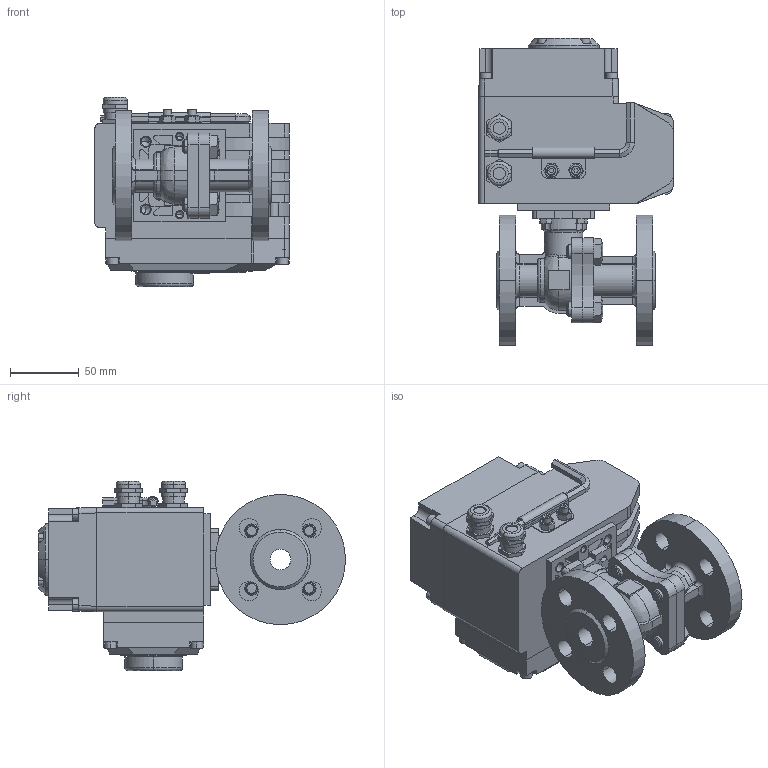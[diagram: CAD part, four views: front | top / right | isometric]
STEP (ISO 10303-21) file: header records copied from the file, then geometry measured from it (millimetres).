
FILE_DESCRIPTION((''),'2;1');
FILE_NAME('BV-22F_EAR_T_ASM','2025-03-03T',('USER'),(''),'PRO/ENGINEER BY PARAMETRIC TECHNOLOGY CORPORATION, 2011220','PRO/ENGINEER BY PARAMETRIC TECHNOLOGY CORPORATION, 2011220','');
FILE_SCHEMA(('CONFIG_CONTROL_DESIGN'));
Length unit declared in the file: millimetre
Products named in the file (15): KORPUS_KRAN_FL; B-7798-M10-20; SB_KRAN_FL_ASM; DET_1; V-11738-M5; V-11738-M4; DET_2; KREPLENIE; KLUCH; DET_3; G-5915-M6; ELECTROPRIVOD_ASM; ELECTROPRIVOD_WITH_DISPLAY_ASM; BOLT; BV-22F_EAR_T_ASM
Assembly tree (31 placements, depth 4):
  BV-22F_EAR_T_ASM
    SB_KRAN_FL_ASM
      KORPUS_KRAN_FL
      B-7798-M10-20  x4
    ELECTROPRIVOD_WITH_DISPLAY_ASM
      ELECTROPRIVOD_ASM
        DET_1
        V-11738-M5  x8
        V-11738-M4  x4
        DET_2
        KREPLENIE
        KLUCH
        DET_3
        G-5915-M6  x2
    BOLT  x4
Bounding box: 142 x 224 x 138 mm (x, y, z)
Volume: 1637773.6 mm3; surface area: 235982.5 mm2
Topology: 28 solids, 68 shells, 1391 faces, 3578 edges, 2344 vertices
Faces by surface type: plane 867, cylinder 405, cone 82, torus 23, bspline 14
Entity records: 35537 total; most frequent: CARTESIAN_POINT 7325, DIRECTION 5849, ORIENTED_EDGE 5680, EDGE_CURVE 2888, VECTOR 2049, LINE 2049, VERTEX_POINT 1906, AXIS2_PLACEMENT_3D 1900
